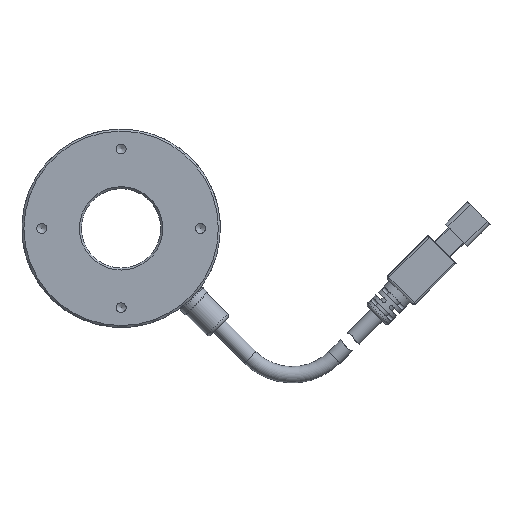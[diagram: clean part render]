
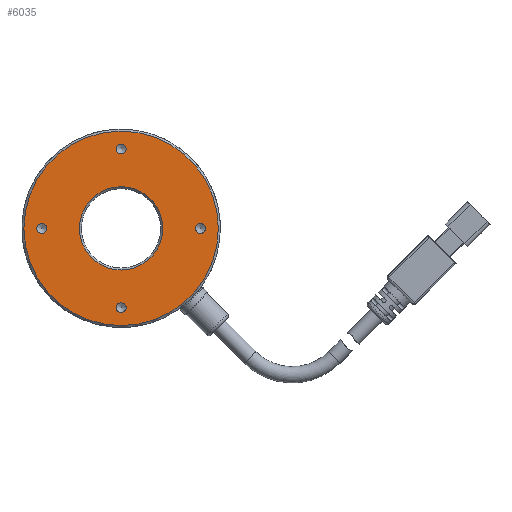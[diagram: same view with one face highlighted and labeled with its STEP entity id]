
A CAD part, front view. The second image highlights one B-rep face of the part: STEP entity #6035.
In plain terms, the highlighted planar face has unit normal (0, -1, 0).
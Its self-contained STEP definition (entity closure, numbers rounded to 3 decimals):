
#102 = DIRECTION ( 'NONE',  ( 0., -1., 0. ) ) ;
#292 = ORIENTED_EDGE ( 'NONE', *, *, #11568, .F. ) ;
#301 = CARTESIAN_POINT ( 'NONE',  ( 20., 30.502, 0. ) ) ;
#436 = DIRECTION ( 'NONE',  ( 0., -1., 0. ) ) ;
#629 = CIRCLE ( 'NONE', #1710, 1.25 ) ;
#739 = DIRECTION ( 'NONE',  ( 0., 0., -1. ) ) ;
#844 = DIRECTION ( 'NONE',  ( 0., 0., -1. ) ) ;
#1076 = ORIENTED_EDGE ( 'NONE', *, *, #2787, .F. ) ;
#1211 = DIRECTION ( 'NONE',  ( 0., 1., 0. ) ) ;
#1312 = DIRECTION ( 'NONE',  ( 0., -1., 0. ) ) ;
#1710 = AXIS2_PLACEMENT_3D ( 'NONE', #6300, #8984, #2522 ) ;
#1830 = VERTEX_POINT ( 'NONE', #2294 ) ;
#1856 = EDGE_LOOP ( 'NONE', ( #7447 ) ) ;
#2294 = CARTESIAN_POINT ( 'NONE',  ( 20., 30.502, -1.25 ) ) ;
#2303 = AXIS2_PLACEMENT_3D ( 'NONE', #301, #1312, #7604 ) ;
#2516 = DIRECTION ( 'NONE',  ( 0., 0., 1. ) ) ;
#2522 = DIRECTION ( 'NONE',  ( 0., 0., -1. ) ) ;
#2787 = EDGE_CURVE ( 'NONE', #4046, #4046, #4197, .T. ) ;
#2926 = CARTESIAN_POINT ( 'NONE',  ( 0., 30.502, 0. ) ) ;
#3109 = ORIENTED_EDGE ( 'NONE', *, *, #3699, .T. ) ;
#3123 = FACE_OUTER_BOUND ( 'NONE', #6536, .T. ) ;
#3387 = VERTEX_POINT ( 'NONE', #7665 ) ;
#3605 = CARTESIAN_POINT ( 'NONE',  ( 0., 30.502, 18.75 ) ) ;
#3642 = CARTESIAN_POINT ( 'NONE',  ( 0., 30.502, 10.5 ) ) ;
#3685 = EDGE_LOOP ( 'NONE', ( #11626 ) ) ;
#3699 = EDGE_CURVE ( 'NONE', #6036, #6036, #11446, .T. ) ;
#3910 = EDGE_CURVE ( 'NONE', #6181, #6181, #629, .T. ) ;
#4046 = VERTEX_POINT ( 'NONE', #6280 ) ;
#4197 = CIRCLE ( 'NONE', #5825, 1.25 ) ;
#4908 = CIRCLE ( 'NONE', #11064, 24.5 ) ;
#4987 = CARTESIAN_POINT ( 'NONE',  ( -20., 30.502, 0. ) ) ;
#5276 = FACE_BOUND ( 'NONE', #7001, .T. ) ;
#5338 = CARTESIAN_POINT ( 'NONE',  ( 0., 30.502, -20. ) ) ;
#5556 = FACE_BOUND ( 'NONE', #8342, .T. ) ;
#5825 = AXIS2_PLACEMENT_3D ( 'NONE', #4987, #436, #844 ) ;
#5960 = VERTEX_POINT ( 'NONE', #6794 ) ;
#6035 = ADVANCED_FACE ( 'NONE', ( #5556, #3123, #8271, #9723, #5276, #7288 ), #9660, .F. ) ;
#6036 = VERTEX_POINT ( 'NONE', #3642 ) ;
#6181 = VERTEX_POINT ( 'NONE', #3605 ) ;
#6280 = CARTESIAN_POINT ( 'NONE',  ( -20., 30.502, -1.25 ) ) ;
#6300 = CARTESIAN_POINT ( 'NONE',  ( 0., 30.502, 20. ) ) ;
#6536 = EDGE_LOOP ( 'NONE', ( #8158 ) ) ;
#6794 = CARTESIAN_POINT ( 'NONE',  ( 0., 30.502, -21.25 ) ) ;
#6800 = CIRCLE ( 'NONE', #9783, 1.25 ) ;
#7001 = EDGE_LOOP ( 'NONE', ( #292 ) ) ;
#7288 = FACE_BOUND ( 'NONE', #1856, .T. ) ;
#7447 = ORIENTED_EDGE ( 'NONE', *, *, #10290, .F. ) ;
#7575 = DIRECTION ( 'NONE',  ( 0., 0., 1. ) ) ;
#7604 = DIRECTION ( 'NONE',  ( 0., 0., -1. ) ) ;
#7665 = CARTESIAN_POINT ( 'NONE',  ( 0., 30.502, 24.5 ) ) ;
#7753 = CIRCLE ( 'NONE', #2303, 1.25 ) ;
#8158 = ORIENTED_EDGE ( 'NONE', *, *, #11517, .T. ) ;
#8271 = FACE_BOUND ( 'NONE', #11380, .T. ) ;
#8342 = EDGE_LOOP ( 'NONE', ( #3109 ) ) ;
#8436 = AXIS2_PLACEMENT_3D ( 'NONE', #9513, #1211, #7575 ) ;
#8976 = DIRECTION ( 'NONE',  ( 0., 1., 0. ) ) ;
#8984 = DIRECTION ( 'NONE',  ( 0., -1., 0. ) ) ;
#9221 = AXIS2_PLACEMENT_3D ( 'NONE', #9861, #8976, #2516 ) ;
#9513 = CARTESIAN_POINT ( 'NONE',  ( 0., 30.502, 0. ) ) ;
#9660 = PLANE ( 'NONE',  #9221 ) ;
#9723 = FACE_BOUND ( 'NONE', #3685, .T. ) ;
#9783 = AXIS2_PLACEMENT_3D ( 'NONE', #5338, #11777, #739 ) ;
#9861 = CARTESIAN_POINT ( 'NONE',  ( -10., 30.502, 0. ) ) ;
#10262 = DIRECTION ( 'NONE',  ( 0., 0., 1. ) ) ;
#10290 = EDGE_CURVE ( 'NONE', #5960, #5960, #6800, .T. ) ;
#11064 = AXIS2_PLACEMENT_3D ( 'NONE', #2926, #102, #10262 ) ;
#11380 = EDGE_LOOP ( 'NONE', ( #1076 ) ) ;
#11446 = CIRCLE ( 'NONE', #8436, 10.5 ) ;
#11517 = EDGE_CURVE ( 'NONE', #3387, #3387, #4908, .T. ) ;
#11568 = EDGE_CURVE ( 'NONE', #1830, #1830, #7753, .T. ) ;
#11626 = ORIENTED_EDGE ( 'NONE', *, *, #3910, .F. ) ;
#11777 = DIRECTION ( 'NONE',  ( 0., -1., 0. ) ) ;
